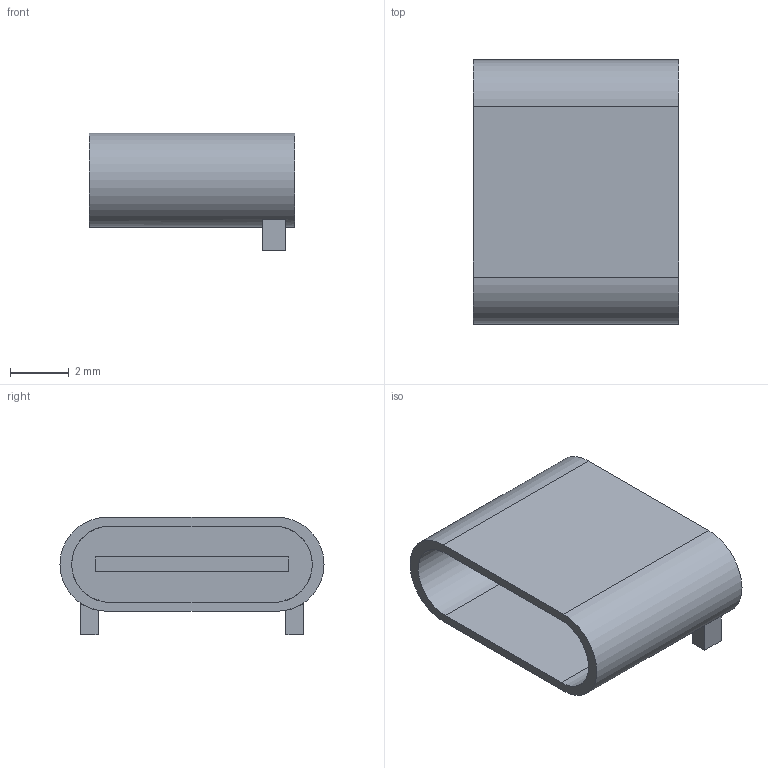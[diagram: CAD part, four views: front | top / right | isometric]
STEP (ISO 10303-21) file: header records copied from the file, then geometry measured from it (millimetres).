
FILE_DESCRIPTION(('Open CASCADE Model'),'2;1');
FILE_NAME('Open CASCADE Shape Model','2026-09-08T13:32:10',('Author'),( 'Open CASCADE'),'Open CASCADE STEP processor 7.7','Open CASCADE 7.7' ,'Unknown');
FILE_SCHEMA(('AUTOMOTIVE_DESIGN { 1 0 10303 214 1 1 1 1 }'));
Length unit declared in the file: millimetre
Products named in the file (1): Open CASCADE STEP translator 7.7 38
Bounding box: 7 x 9 x 4 mm (x, y, z)
Volume: 72.8 mm3; surface area: 399.8 mm2
Topology: 1 solids, 1 shells, 32 faces, 78 edges, 52 vertices
Faces by surface type: plane 28, cylinder 4
Entity records: 1972 total; most frequent: CARTESIAN_POINT 363, DIRECTION 302, LINE 194, VECTOR 194, ORIENTED_EDGE 156, PCURVE 156, DEFINITIONAL_REPRESENTATION 156, EDGE_CURVE 78
